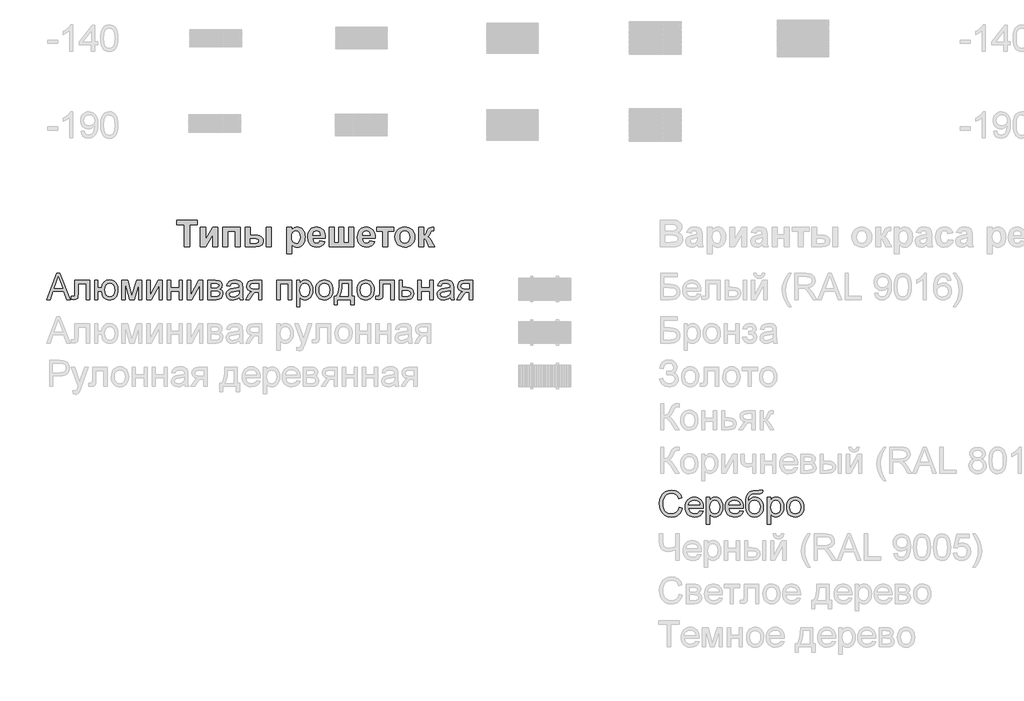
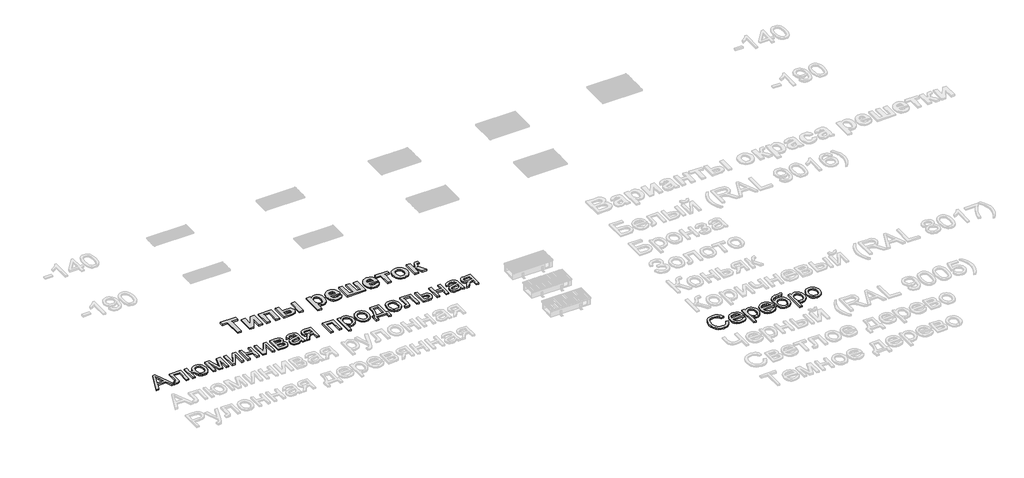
# One storey, part 4 of 12: 3 proxies.
"""IFC4 building model written with IfcOpenShell, lengths in millimetres."""

from ifc_helpers import new_model, si_unit, origin, origin_with_axes, place, context, project, spatial, polyline, outline, extrude, element, save

model = new_model("IFC4")

# Units and contexts
model_context = context("Model", 3, world=origin())
ifc_project = project(units=[si_unit("LENGTHUNIT", "METRE", prefix="MILLI")], contexts=[model_context])

# Site, building, storey
site = spatial("IfcSite", under=ifc_project)
building = spatial("IfcBuilding", under=site)
storey = spatial("IfcBuildingStorey", under=building, Name="Уровень 1", Elevation=0.0)

# Proxies
placement = place(None, origin())
element("IfcBuildingElementProxy", 1, Name="300", ObjectType="300", at=placement, inside=storey, context=model_context, shape_type="SweptSolid", body=[
    extrude(outline(polyline([(29.0156644, -12915.1127464), (149.3130768, -12613.7438159), (181.3923868, -12613.7438159), (301.6897992, -12915.1127464), (261.8849673, -12915.1127464), (227.3776362, -12820.9349556), (103.254251, -12820.9349556), (68.8204963, -12915.1127464), (29.0156644, -12915.1127464)]), holes=[polyline([(117.086614, -12783.2638393), (213.6188496, -12783.2638393), (186.4691583, -12709.1724055), (165.3527318, -12651.4149322), (146.5907501, -12702.6976824), (117.086614, -12783.2638393)])]), origin_with_axes(), (0.0, 0.0, 1.0), 20.0),
    extrude(outline(polyline([(356.0627581, -12693.7949381), (525.5827815, -12693.7949381), (525.5827815, -12914.8920172), (487.9116652, -12914.8920172), (487.9116652, -12731.4660544), (393.7338744, -12731.4660544), (393.7338744, -12837.048187), (391.1954887, -12885.7557632), (386.4406139, -12896.783026), (377.252761, -12906.3203667), (363.3100334, -12912.9146515), (344.2905343, -12915.1127464), (313.6827523, -12913.19976), (313.6827523, -12877.4416301), (330.5317476, -12877.4416301), (347.564684, -12875.1239735), (354.3705009, -12867.7663336), (356.0627581, -12834.9144714), (356.0627581, -12693.7949381)])), origin_with_axes(), (0.0, 0.0, 1.0), 20.0),
    extrude(outline(polyline([(582.0894559, -12693.7949381), (619.7605723, -12693.7949381), (619.7605723, -12778.5549498), (662.1405781, -12778.5549498), (671.9170421, -12740.1480695), (680.4404081, -12724.8073903), (691.3871967, -12712.041885), (704.4493068, -12701.9987066), (719.3186372, -12694.8250077), (754.4789589, -12689.0860485), (784.0290802, -12692.4613658), (806.6078376, -12702.5873178), (824.0270501, -12718.6361698), (838.0985364, -12739.7801875), (847.3967538, -12767.5920663), (850.4961596, -12803.6445018), (848.8935737, -12830.4998875), (844.0858159, -12853.8971824), (836.0728862, -12873.8363865), (824.8547846, -12890.3174999), (810.8913636, -12903.2255594), (794.6424757, -12912.4456019), (776.1081209, -12917.9776274), (755.2882993, -12919.8216359), (735.8848233, -12918.0925905), (718.5092968, -12912.9054544), (703.1617198, -12904.2602275), (689.8420923, -12892.1569099), (678.8815081, -12877.0369599), (670.611061, -12859.3418359), (662.1405781, -12816.2260661), (619.7605723, -12816.2260661), (619.7605723, -12915.1127464), (582.0894559, -12915.1127464), (582.0894559, -12693.7949381)]), holes=[polyline([(756.9069801, -12726.7571648), (732.8934828, -12731.6316013), (714.858068, -12746.2549106), (703.5732878, -12769.6705996), (699.8116944, -12800.9221751), (703.600879, -12837.3332956), (714.9684326, -12862.5424093), (732.6819507, -12877.248492), (755.5090285, -12882.1505196), (778.4004856, -12877.616374), (796.7486001, -12864.0139373), (808.8059325, -12840.3131397), (812.8250433, -12805.4839118), (809.3485585, -12771.04096), (798.9191039, -12746.4388516), (781.4631032, -12731.6775865), (756.9069801, -12726.7571648)])]), origin_with_axes(), (0.0, 0.0, 1.0), 20.0),
    extrude(outline(polyline([(897.585055, -12693.7949381), (962.4058626, -12693.7949381), (1012.3642375, -12870.966907), (1066.2221616, -12693.7949381), (1128.3206424, -12693.7949381), (1128.3206424, -12915.1127464), (1090.6495261, -12915.1127464), (1090.6495261, -12736.9107079), (1036.4972964, -12915.1127464), (987.0539562, -12915.1127464), (935.2561713, -12728.3758456), (935.2561713, -12915.1127464), (897.585055, -12915.1127464), (897.585055, -12693.7949381)])), origin_with_axes(), (0.0, 0.0, 1.0), 20.0),
    extrude(outline(polyline([(1184.8273168, -12693.7949381), (1222.4984332, -12693.7949381), (1222.4984332, -12862.5791975), (1315.0575431, -12693.7949381), (1363.7651193, -12693.7949381), (1363.7651193, -12915.1127464), (1326.094003, -12915.1127464), (1326.094003, -12747.3585566), (1234.1235042, -12915.1127464), (1184.8273168, -12915.1127464), (1184.8273168, -12693.7949381)])), origin_with_axes(), (0.0, 0.0, 1.0), 20.0),
    extrude(outline(polyline([(1420.2717938, -12693.7949381), (1457.9429101, -12693.7949381), (1457.9429101, -12778.5549498), (1556.8295904, -12778.5549498), (1556.8295904, -12693.7949381), (1594.5007067, -12693.7949381), (1594.5007067, -12915.1127464), (1556.8295904, -12915.1127464), (1556.8295904, -12816.2260661), (1457.9429101, -12816.2260661), (1457.9429101, -12915.1127464), (1420.2717938, -12915.1127464), (1420.2717938, -12693.7949381)])), origin_with_axes(), (0.0, 0.0, 1.0), 20.0),
    extrude(outline(polyline([(1651.0073811, -12693.7949381), (1688.6784974, -12693.7949381), (1688.6784974, -12862.5791975), (1781.2376074, -12693.7949381), (1829.9451836, -12693.7949381), (1829.9451836, -12915.1127464), (1792.2740673, -12915.1127464), (1792.2740673, -12747.3585566), (1700.3035685, -12915.1127464), (1651.0073811, -12915.1127464), (1651.0073811, -12693.7949381)])), origin_with_axes(), (0.0, 0.0, 1.0), 20.0),
    extrude(outline(polyline([(1886.451858, -12693.7949381), (1969.4460362, -12693.7949381), (1996.1266779, -12695.0549339), (2014.953039, -12698.8349214), (2028.8037961, -12705.9718321), (2040.5576258, -12717.3025976), (2048.5866504, -12732.0638626), (2051.2629919, -12749.4922722), (2049.6443111, -12763.5361673), (2044.7882688, -12775.648682), (2036.6764708, -12785.8849985), (2025.290523, -12794.3002992), (2039.2332506, -12802.1269886), (2050.6008043, -12814.7177499), (2058.1607793, -12831.0793016), (2060.680771, -12850.2183624), (2054.2980183, -12878.9315522), (2039.122886, -12899.1466678), (2015.1001918, -12911.1212267), (1982.1747532, -12915.1127464), (1886.451858, -12915.1127464), (1886.451858, -12693.7949381)]), holes=[polyline([(1924.1229744, -12778.5549498), (1961.3526323, -12778.5549498), (1992.0707789, -12776.6419634), (2007.0067879, -12768.9900179), (2011.9456037, -12762.6624476), (2013.5918756, -12755.1576549), (2010.7040019, -12743.9188599), (2002.0403809, -12736.6899787), (1986.387002, -12732.7720355), (1962.5298546, -12731.4660544), (1924.1229744, -12731.4660544), (1924.1229744, -12778.5549498)]), polyline([(1924.1229744, -12877.4416301), (1970.3289529, -12877.4416301), (1995.5104755, -12875.7401758), (2011.3110072, -12870.6358132), (2019.7906872, -12861.3559898), (2023.0096547, -12847.1281537), (2021.4001709, -12837.7011775), (2016.5717197, -12828.9915713), (2009.1588975, -12822.1765573), (1999.7963008, -12818.433358), (1966.650133, -12816.2260661), (1924.1229744, -12816.2260661), (1924.1229744, -12877.4416301)])]), origin_with_axes(), (0.0, 0.0, 1.0), 20.0),
    extrude(outline(polyline([(2249.0363525, -12886.8594092), (2231.0377259, -12902.2920588), (2212.5056704, -12912.3904196), (2193.0171217, -12917.9638318), (2172.1490155, -12919.8216359), (2140.6675138, -12915.3518697), (2117.4449628, -12901.942571), (2103.1251562, -12881.5803025), (2098.3518873, -12856.2516272), (2100.154509, -12840.6350365), (2105.5623744, -12826.4531855), (2113.9040986, -12814.3130797), (2124.5082971, -12804.8217242), (2150.8854362, -12792.4608892), (2183.479781, -12786.7955065), (2221.9970258, -12780.8358181), (2248.8156233, -12773.8460602), (2249.0363525, -12765.4583507), (2246.4427844, -12748.6461436), (2238.6620802, -12737.6464719), (2221.2612619, -12729.4794916), (2197.0178384, -12726.7571648), (2174.5770367, -12728.5689837), (2158.9052637, -12734.0044402), (2148.2182917, -12744.0568157), (2140.7318931, -12759.7193916), (2103.0607768, -12755.0105021), (2109.5998793, -12734.4091103), (2119.3579492, -12718.2223026), (2133.2454945, -12705.8430734), (2152.1730232, -12696.6644176), (2175.3219977, -12690.9806408), (2201.8738807, -12689.0860485), (2227.3405118, -12690.7599116), (2247.5280363, -12695.7815009), (2262.7491539, -12703.3322788), (2273.3165642, -12712.593708), (2280.3247162, -12724.0440351), (2284.8680588, -12738.1615067), (2286.7074688, -12771.1237335), (2286.7074688, -12817.9918997), (2288.6204552, -12883.4381066), (2296.1252479, -12915.1127464), (2258.4541316, -12915.1127464), (2249.0363525, -12886.8594092)]), holes=[polyline([(2249.0363525, -12811.5171765), (2188.2622469, -12823.0686712), (2155.8518431, -12829.1755123), (2141.1733515, -12839.1083262), (2136.0230036, -12853.6028768), (2138.8281038, -12864.8048835), (2147.2434044, -12873.9835393), (2161.0849645, -12880.1087745), (2180.168843, -12882.1505196), (2200.4023527, -12879.8972424), (2218.2814177, -12873.1374107), (2232.7759683, -12863.1770057), (2242.855935, -12851.3220084), (2247.3257012, -12839.1083262), (2248.8156233, -12822.1857544), (2249.0363525, -12811.5171765)])]), origin_with_axes(), (0.0, 0.0, 1.0), 20.0),
    extrude(outline(polyline([(2508.0252771, -12693.7949381), (2508.0252771, -12915.1127464), (2470.3541608, -12915.1127464), (2470.3541608, -12830.3527347), (2449.8263455, -12830.3527347), (2421.8673138, -12835.1352006), (2410.7020953, -12845.5646552), (2395.6005394, -12867.288087), (2365.5813686, -12915.1127464), (2322.0241403, -12915.1127464), (2359.8424094, -12854.6329464), (2376.544252, -12832.9279087), (2391.9217194, -12823.2894004), (2366.1699798, -12815.3983316), (2348.0701856, -12800.4071403), (2337.3648195, -12780.4679361), (2333.7963642, -12757.7328288), (2338.6708006, -12731.944301), (2353.2941099, -12711.5268502), (2377.1512573, -12698.2279161), (2409.727208, -12693.7949381), (2508.0252771, -12693.7949381)]), holes=[polyline([(2470.3541608, -12731.4660544), (2420.6900914, -12731.4660544), (2395.0395193, -12733.6457552), (2380.4805894, -12740.1848577), (2373.7207577, -12749.648622), (2371.4674805, -12760.6023084), (2374.7876155, -12774.9589033), (2384.7480205, -12784.9193083), (2403.1513173, -12790.7410409), (2431.8001277, -12792.6816184), (2470.3541608, -12792.6816184), (2470.3541608, -12731.4660544)])]), origin_with_axes(), (0.0, 0.0, 1.0), 20.0),
    extrude(outline(polyline([(2682.25419, -12693.7949381), (2851.7742134, -12693.7949381), (2851.7742134, -12915.1127464), (2814.1030971, -12915.1127464), (2814.1030971, -12731.4660544), (2719.9253063, -12731.4660544), (2719.9253063, -12915.1127464), (2682.25419, -12915.1127464), (2682.25419, -12693.7949381)])), origin_with_axes(), (0.0, 0.0, 1.0), 20.0),
    extrude(outline(polyline([(2908.2808879, -12999.8727581), (2908.2808879, -12693.7949381), (2945.9520042, -12693.7949381), (2945.9520042, -12730.7302904), (2958.2392628, -12712.5109346), (2971.9980494, -12699.497109), (2988.0377044, -12691.6888137), (3007.1675682, -12689.0860485), (3032.6433963, -12692.7280803), (3054.9186511, -12703.6541756), (3073.0552335, -12721.2021467), (3086.1150443, -12744.7098062), (3094.0061131, -12772.4665028), (3096.6364694, -12802.7615851), (3093.6658223, -12834.9788508), (3084.7538809, -12863.7932081), (3070.1857539, -12887.7423259), (3050.2465498, -12905.3638735), (3027.0239988, -12916.2071953), (3002.6058314, -12919.8216359), (2985.2877865, -12917.4028118), (2969.8275456, -12910.1463394), (2956.5929909, -12899.192653), (2945.9520042, -12885.6821868), (2945.9520042, -12999.8727581), (2908.2808879, -12999.8727581)]), holes=[polyline([(2945.9520042, -12806.2196758), (2950.0262973, -12839.991243), (2962.2491765, -12863.6092671), (2980.2845914, -12877.5152065), (3001.796491, -12882.1505196), (3023.6578786, -12877.3496596), (3042.1531459, -12862.9470795), (3054.7623013, -12838.4645327), (3058.9653531, -12803.4237726), (3054.8634688, -12769.8361465), (3042.5578161, -12745.8870286), (3024.5499924, -12731.5396308), (3003.3415954, -12726.7571648), (2982.0504249, -12731.8431334), (2963.3528225, -12747.1010392), (2950.3022087, -12772.0526355), (2945.9520042, -12806.2196758)])]), origin_with_axes(), (0.0, 0.0, 1.0), 20.0),
    extrude(outline(polyline([(3129.5986961, -12804.4538422), (3131.6358427, -12775.7912363), (3137.7472823, -12751.0925588), (3147.9330151, -12730.3578099), (3162.1930409, -12713.5869894), (3176.5496358, -12702.8678278), (3192.3961527, -12695.2112838), (3209.7325917, -12690.6173573), (3228.5589529, -12689.0860485), (3249.3419863, -12690.9507504), (3268.1338585, -12696.544856), (3284.9345693, -12705.8683653), (3299.7441189, -12718.9212784), (3311.8313417, -12735.2621367), (3320.4650723, -12754.449482), (3325.6453106, -12776.4833143), (3327.3720568, -12801.3636335), (3324.3186362, -12839.4210259), (3315.1583745, -12868.391733), (3300.1579862, -12890.0875737), (3279.5841856, -12906.3203667), (3255.1476241, -12916.4463186), (3228.5589529, -12919.8216359), (3207.4724167, -12917.9638318), (3188.5058006, -12912.3904196), (3171.6591045, -12903.1013992), (3156.9323284, -12890.0967707), (3144.9738643, -12873.5972632), (3136.4321042, -12853.823606), (3131.3070482, -12830.775799), (3129.5986961, -12804.4538422)]), holes=[polyline([(3167.2698125, -12804.3802658), (3171.6292141, -12838.4737297), (3184.707419, -12862.7631385), (3204.3891058, -12877.3036743), (3228.5589529, -12882.1505196), (3252.6184353, -12877.2760832), (3272.2633339, -12862.6527739), (3285.3415388, -12838.0414684), (3289.7009404, -12803.2030434), (3285.3139477, -12770.1028609), (3272.1529693, -12746.144546), (3252.4804796, -12731.6040101), (3228.5589529, -12726.7571648), (3204.3891058, -12731.585616), (3184.707419, -12746.0709696), (3171.6292141, -12770.305196), (3167.2698125, -12804.3802658)])]), origin_with_axes(), (0.0, 0.0, 1.0), 20.0),
    extrude(outline(polyline([(3402.7142894, -12693.7949381), (3543.9809755, -12693.7949381), (3543.9809755, -12877.4416301), (3572.2343127, -12877.4416301), (3572.2343127, -12976.3283104), (3534.5631964, -12976.3283104), (3534.5631964, -12915.1127464), (3379.1698417, -12915.1127464), (3379.1698417, -12976.3283104), (3341.4987254, -12976.3283104), (3341.4987254, -12877.4416301), (3365.0431731, -12877.4416301), (3382.1588829, -12846.5119513), (3394.1426389, -12805.5942764), (3400.994441, -12754.6886053), (3402.7142894, -12693.7949381)]), holes=[polyline([(3435.6765161, -12731.4660544), (3432.5863074, -12777.5892595), (3426.8473483, -12817.2929239), (3418.4596388, -12850.5770474), (3407.4231789, -12877.4416301), (3506.3098592, -12877.4416301), (3506.3098592, -12731.4660544), (3435.6765161, -12731.4660544)])]), origin_with_axes(), (0.0, 0.0, 1.0), 20.0),
    extrude(outline(polyline([(3605.1965395, -12804.4538422), (3607.2336861, -12775.7912363), (3613.3451257, -12751.0925588), (3623.5308584, -12730.3578099), (3637.7908843, -12713.5869894), (3652.1474791, -12702.8678278), (3667.9939961, -12695.2112838), (3685.3304351, -12690.6173573), (3704.1567962, -12689.0860485), (3724.9398297, -12690.9507504), (3743.7317018, -12696.544856), (3760.5324127, -12705.8683653), (3775.3419623, -12718.9212784), (3787.4291851, -12735.2621367), (3796.0629157, -12754.449482), (3801.243154, -12776.4833143), (3802.9699001, -12801.3636335), (3799.9164796, -12839.4210259), (3790.7562179, -12868.391733), (3775.7558295, -12890.0875737), (3755.1820289, -12906.3203667), (3730.7454674, -12916.4463186), (3704.1567962, -12919.8216359), (3683.0702601, -12917.9638318), (3664.103644, -12912.3904196), (3647.2569479, -12903.1013992), (3632.5301718, -12890.0967707), (3620.5717076, -12873.5972632), (3612.0299476, -12853.823606), (3606.9048915, -12830.775799), (3605.1965395, -12804.4538422)]), holes=[polyline([(3642.8676558, -12804.3802658), (3647.2270575, -12838.4737297), (3660.3052624, -12862.7631385), (3679.9869491, -12877.3036743), (3704.1567962, -12882.1505196), (3728.2162787, -12877.2760832), (3747.8611772, -12862.6527739), (3760.9393822, -12838.0414684), (3765.2987838, -12803.2030434), (3760.911791, -12770.1028609), (3747.7508126, -12746.144546), (3728.078323, -12731.6040101), (3704.1567962, -12726.7571648), (3679.9869491, -12731.585616), (3660.3052624, -12746.0709696), (3647.2270575, -12770.305196), (3642.8676558, -12804.3802658)])]), origin_with_axes(), (0.0, 0.0, 1.0), 20.0),
    extrude(outline(polyline([(3864.1854641, -12693.7949381), (4033.7054875, -12693.7949381), (4033.7054875, -12914.8920172), (3996.0343712, -12914.8920172), (3996.0343712, -12731.4660544), (3901.8565804, -12731.4660544), (3901.8565804, -12837.048187), (3899.3181947, -12885.7557632), (3894.5633199, -12896.783026), (3885.375467, -12906.3203667), (3871.4327394, -12912.9146515), (3852.4132403, -12915.1127464), (3821.8054583, -12913.19976), (3821.8054583, -12877.4416301), (3838.6544537, -12877.4416301), (3855.68739, -12875.1239735), (3862.4932069, -12867.7663336), (3864.1854641, -12834.9144714), (3864.1854641, -12693.7949381)])), origin_with_axes(), (0.0, 0.0, 1.0), 20.0),
    extrude(outline(polyline([(4090.212162, -12693.7949381), (4127.8832783, -12693.7949381), (4127.8832783, -12773.8460602), (4171.2933537, -12773.8460602), (4208.9276818, -12778.5641468), (4224.0752229, -12784.4617551), (4236.7763488, -12792.7184066), (4246.8195273, -12803.0489929), (4253.9932262, -12815.1684053), (4259.7321853, -12844.7737089), (4254.8485518, -12871.7302621), (4240.1976514, -12894.4745665), (4228.9657542, -12903.5037702), (4214.8045967, -12909.9532014), (4177.6945004, -12915.1127464), (4090.212162, -12915.1127464), (4090.212162, -12693.7949381)]), holes=[polyline([(4127.8832783, -12877.4416301), (4163.052797, -12877.4416301), (4190.340444, -12875.4642644), (4208.4862234, -12869.5321672), (4218.6673576, -12859.4062153), (4222.061069, -12844.8472853), (4219.5502744, -12832.5416326), (4212.0178906, -12821.6707196), (4195.877068, -12814.0555623), (4167.5409573, -12811.5171765), (4127.8832783, -12811.5171765), (4127.8832783, -12877.4416301)])]), origin_with_axes(), (0.0, 0.0, 1.0), 20.0),
    extrude(outline(polyline([(4306.8210807, -12693.7949381), (4344.492197, -12693.7949381), (4344.492197, -12778.5549498), (4443.3788773, -12778.5549498), (4443.3788773, -12693.7949381), (4481.0499936, -12693.7949381), (4481.0499936, -12915.1127464), (4443.3788773, -12915.1127464), (4443.3788773, -12816.2260661), (4344.492197, -12816.2260661), (4344.492197, -12915.1127464), (4306.8210807, -12915.1127464), (4306.8210807, -12693.7949381)])), origin_with_axes(), (0.0, 0.0, 1.0), 20.0),
    extrude(outline(polyline([(4678.8233542, -12886.8594092), (4660.8247276, -12902.2920588), (4642.2926721, -12912.3904196), (4622.8041234, -12917.9638318), (4601.9360172, -12919.8216359), (4570.4545155, -12915.3518697), (4547.2319646, -12901.942571), (4532.9121579, -12881.5803025), (4528.138889, -12856.2516272), (4529.9415108, -12840.6350365), (4535.3493761, -12826.4531855), (4543.6911004, -12814.3130797), (4554.2952989, -12804.8217242), (4580.6724379, -12792.4608892), (4613.2667827, -12786.7955065), (4651.7840276, -12780.8358181), (4678.602625, -12773.8460602), (4678.8233542, -12765.4583507), (4676.2297862, -12748.6461436), (4668.449082, -12737.6464719), (4651.0482636, -12729.4794916), (4626.8048401, -12726.7571648), (4604.3640384, -12728.5689837), (4588.6922654, -12734.0044402), (4578.0052935, -12744.0568157), (4570.5188949, -12759.7193916), (4532.8477786, -12755.0105021), (4539.386881, -12734.4091103), (4549.1449509, -12718.2223026), (4563.0324963, -12705.8430734), (4581.9600249, -12696.6644176), (4605.1089995, -12690.9806408), (4631.6608825, -12689.0860485), (4657.1275136, -12690.7599116), (4677.3150381, -12695.7815009), (4692.5361556, -12703.3322788), (4703.1035659, -12712.593708), (4710.1117179, -12724.0440351), (4714.6550606, -12738.1615067), (4716.4944705, -12771.1237335), (4716.4944705, -12817.9918997), (4718.4074569, -12883.4381066), (4725.9122496, -12915.1127464), (4688.2411333, -12915.1127464), (4678.8233542, -12886.8594092)]), holes=[polyline([(4678.8233542, -12811.5171765), (4618.0492486, -12823.0686712), (4585.6388449, -12829.1755123), (4570.9603533, -12839.1083262), (4565.8100053, -12853.6028768), (4568.6151055, -12864.8048835), (4577.0304062, -12873.9835393), (4590.8719662, -12880.1087745), (4609.9558447, -12882.1505196), (4630.1893545, -12879.8972424), (4648.0684194, -12873.1374107), (4662.5629701, -12863.1770057), (4672.6429367, -12851.3220084), (4677.112703, -12839.1083262), (4678.602625, -12822.1857544), (4678.8233542, -12811.5171765)])]), origin_with_axes(), (0.0, 0.0, 1.0), 20.0),
    extrude(outline(polyline([(4937.8122788, -12693.7949381), (4937.8122788, -12915.1127464), (4900.1411625, -12915.1127464), (4900.1411625, -12830.3527347), (4879.6133472, -12830.3527347), (4851.6543156, -12835.1352006), (4840.489097, -12845.5646552), (4825.3875411, -12867.288087), (4795.3683703, -12915.1127464), (4751.8111421, -12915.1127464), (4789.6294112, -12854.6329464), (4806.3312538, -12832.9279087), (4821.7087212, -12823.2894004), (4795.9569815, -12815.3983316), (4777.8571873, -12800.4071403), (4767.1518213, -12780.4679361), (4763.5833659, -12757.7328288), (4768.4578024, -12731.944301), (4783.0811117, -12711.5268502), (4806.9382591, -12698.2279161), (4839.5142097, -12693.7949381), (4937.8122788, -12693.7949381)]), holes=[polyline([(4900.1411625, -12731.4660544), (4850.4770932, -12731.4660544), (4824.8265211, -12733.6457552), (4810.2675911, -12740.1848577), (4803.5077595, -12749.648622), (4801.2544822, -12760.6023084), (4804.5746172, -12774.9589033), (4814.5350223, -12784.9193083), (4832.9383191, -12790.7410409), (4861.5871294, -12792.6816184), (4900.1411625, -12792.6816184), (4900.1411625, -12731.4660544)])]), origin_with_axes(), (0.0, 0.0, 1.0), 20.0),
])
element("IfcBuildingElementProxy", 2, Name="300", ObjectType="300", at=placement, inside=storey, context=model_context, shape_type="SweptSolid", body=[
    extrude(outline(polyline([(7314.0636537, -15307.9855094), (7351.73477, -15317.6975941), (7344.2805611, -15341.1247794), (7334.3523457, -15361.5951131), (7321.950124, -15379.1085954), (7307.0738958, -15393.6652261), (7290.0593535, -15405.1086554), (7271.2421895, -15413.2825335), (7250.6224036, -15418.1868603), (7228.199996, -15419.8216359), (7184.5048121, -15414.8736231), (7149.8043429, -15400.0295846), (7123.2064746, -15375.8045552), (7103.8190935, -15342.7135697), (7091.9824903, -15303.8100487), (7088.0369559, -15262.1474128), (7092.4975251, -15218.2039085), (7105.8792326, -15180.2568807), (7127.4831028, -15149.5111429), (7156.6101598, -15127.1715088), (7191.1542791, -15113.569072), (7229.0093364, -15109.0349264), (7270.3132874, -15114.9026442), (7288.2820236, -15122.2372915), (7304.4619336, -15132.5057977), (7318.586303, -15145.4368498), (7330.3884172, -15160.7591349), (7347.0258805, -15198.577404), (7309.3547642, -15207.5537247), (7296.2949533, -15180.0821367), (7278.4526766, -15161.2373815), (7255.6072047, -15150.3388774), (7227.5378084, -15146.7060427), (7195.182587, -15150.7343505), (7168.6031128, -15162.8192741), (7148.4339824, -15181.6916204), (7135.3097923, -15206.0821967), (7128.1085022, -15233.6549523), (7125.7080722, -15262.0738364), (7128.5499606, -15296.8754731), (7137.0756258, -15326.9682203), (7151.6069646, -15351.2024468), (7172.4658738, -15368.4285212), (7197.4726524, -15378.72002), (7224.4475997, -15382.1505196), (7255.8923132, -15377.4784183), (7282.0947083, -15363.4621143), (7301.8775626, -15340.2487604), (7314.0636537, -15307.9855094)])), origin_with_axes(), (0.0, 0.0, 1.0), 20.0),
    extrude(outline(polyline([(7553.7755618, -15349.1882928), (7590.7109141, -15353.8971824), (7577.4027829, -15381.7274553), (7556.1667947, -15402.5311821), (7527.4811962, -15415.4990225), (7491.8242338, -15419.8216359), (7468.4499315, -15417.9569341), (7447.6232121, -15412.3628285), (7429.3440754, -15403.0393192), (7413.6125216, -15389.9864061), (7400.9619795, -15373.5673728), (7391.925878, -15354.1455027), (7386.5042171, -15331.7207959), (7384.6969968, -15306.2932522), (7386.5226112, -15280.0034851), (7391.9994544, -15256.831518), (7401.1275264, -15236.7773507), (7413.9068272, -15219.8409833), (7429.5969943, -15206.3856994), (7447.4576652, -15196.7747822), (7467.4888398, -15191.008232), (7489.6905182, -15189.0860485), (7511.177126, -15191.0036334), (7530.6081931, -15196.7563881), (7547.9837196, -15206.3443126), (7563.3037054, -15219.7674069), (7575.809394, -15236.6669861), (7584.7420287, -15256.6843652), (7590.1016095, -15279.8195441), (7591.8881365, -15306.072523), (7591.6674073, -15316.2260661), (7422.3681131, -15316.2260661), (7428.8888215, -15344.424221), (7444.0363626, -15365.1543714), (7465.8977502, -15377.9014826), (7492.5599978, -15382.1505196), (7512.6095665, -15380.1823509), (7529.4953501, -15374.2778449), (7543.2173485, -15364.0691195), (7553.7755618, -15349.1882928)]), holes=[polyline([(7422.3681131, -15278.5549498), (7554.2170202, -15278.5549498), (7549.1218545, -15258.6525338), (7539.1338584, -15244.4155006), (7517.1713032, -15231.1717488), (7489.5433654, -15226.7571648), (7464.1503107, -15230.279635), (7443.1534458, -15240.8470453), (7428.5577277, -15257.3189616), (7422.3681131, -15278.5549498)])]), origin_with_axes(), (0.0, 0.0, 1.0), 20.0),
    extrude(outline(polyline([(7629.5592528, -15499.8727581), (7629.5592528, -15193.7949381), (7667.2303691, -15193.7949381), (7667.2303691, -15230.7302904), (7679.5176277, -15212.5109346), (7693.2764143, -15199.497109), (7709.3160693, -15191.6888137), (7728.4459331, -15189.0860485), (7753.9217612, -15192.7280803), (7776.1970161, -15203.6541756), (7794.3335984, -15221.2021467), (7807.3934092, -15244.7098062), (7815.284478, -15272.4665028), (7817.9148343, -15302.7615851), (7814.9441872, -15334.9788508), (7806.0322459, -15363.7932081), (7791.4641189, -15387.7423259), (7771.5249147, -15405.3638735), (7748.3023638, -15416.2071953), (7723.8841963, -15419.8216359), (7706.5661514, -15417.4028118), (7691.1059106, -15410.1463394), (7677.8713558, -15399.192653), (7667.2303691, -15385.6821868), (7667.2303691, -15499.8727581), (7629.5592528, -15499.8727581)]), holes=[polyline([(7667.2303691, -15306.2196758), (7671.3046622, -15339.991243), (7683.5275415, -15363.6092671), (7701.5629563, -15377.5152065), (7723.074856, -15382.1505196), (7744.9362435, -15377.3496596), (7763.4315108, -15362.9470795), (7776.0406662, -15338.4645327), (7780.243718, -15303.4237726), (7776.1418338, -15269.8361465), (7763.836181, -15245.8870286), (7745.8283574, -15231.5396308), (7724.6199603, -15226.7571648), (7703.3287899, -15231.8431334), (7684.6311875, -15247.1010392), (7671.5805737, -15272.0526355), (7667.2303691, -15306.2196758)])]), origin_with_axes(), (0.0, 0.0, 1.0), 20.0),
    extrude(outline(polyline([(8015.2467365, -15349.1882928), (8052.1820888, -15353.8971824), (8038.8739577, -15381.7274553), (8017.6379695, -15402.5311821), (7988.9523709, -15415.4990225), (7953.2954085, -15419.8216359), (7929.9211063, -15417.9569341), (7909.0943868, -15412.3628285), (7890.8152502, -15403.0393192), (7875.0836964, -15389.9864061), (7862.4331542, -15373.5673728), (7853.3970527, -15354.1455027), (7847.9753918, -15331.7207959), (7846.1681715, -15306.2932522), (7847.9937859, -15280.0034851), (7853.4706291, -15256.831518), (7862.5987011, -15236.7773507), (7875.378002, -15219.8409833), (7891.068169, -15206.3856994), (7908.9288399, -15196.7747822), (7928.9600146, -15191.008232), (7951.161693, -15189.0860485), (7972.6483007, -15191.0036334), (7992.0793679, -15196.7563881), (8009.4548944, -15206.3443126), (8024.7748802, -15219.7674069), (8037.2805688, -15236.6669861), (8046.2132035, -15256.6843652), (8051.5727843, -15279.8195441), (8053.3593112, -15306.072523), (8053.138582, -15316.2260661), (7883.8392878, -15316.2260661), (7890.3599962, -15344.424221), (7905.5075374, -15365.1543714), (7927.3689249, -15377.9014826), (7954.0311725, -15382.1505196), (7974.0807413, -15380.1823509), (7990.9665248, -15374.2778449), (8004.6885233, -15364.0691195), (8015.2467365, -15349.1882928)]), holes=[polyline([(7883.8392878, -15278.5549498), (8015.6881949, -15278.5549498), (8010.5930293, -15258.6525338), (8000.6050331, -15244.4155006), (7978.642478, -15231.1717488), (7951.0145402, -15226.7571648), (7925.6214854, -15230.279635), (7904.6246206, -15240.8470453), (7890.0289024, -15257.3189616), (7883.8392878, -15278.5549498)])]), origin_with_axes(), (0.0, 0.0, 1.0), 20.0),
    extrude(outline(polyline([(8246.4237823, -15109.0349264), (8279.3860091, -15109.0349264), (8275.8175537, -15126.9415825), (8269.6739244, -15138.4286978), (8261.1574562, -15145.2253177), (8250.4704842, -15149.0604875), (8204.338082, -15151.4149322), (8166.0323693, -15153.585436), (8142.2028131, -15160.0969473), (8127.9473857, -15171.3909246), (8118.3640598, -15187.9088262), (8112.7262682, -15209.7794108), (8110.3074441, -15237.1314371), (8125.4549852, -15216.088587), (8142.938577, -15201.0790016), (8162.7766136, -15192.0842868), (8184.9874891, -15189.0860485), (8205.5107059, -15190.9921371), (8224.1853157, -15196.7104029), (8241.0113184, -15206.2408458), (8255.9887142, -15219.5834659), (8268.2851699, -15236.1772432), (8277.0683525, -15255.4611575), (8282.3382621, -15277.4352089), (8284.0948986, -15302.0993975), (8280.6092167, -15338.0598625), (8270.152171, -15366.920205), (8254.9126593, -15389.3518097), (8237.0795796, -15406.0260611), (8214.4916251, -15416.3727422), (8184.9874891, -15419.8216359), (8150.9859957, -15415.3794608), (8125.5009705, -15402.0529356), (8106.7481858, -15381.8010317), (8092.9434139, -15356.5827209), (8084.4453398, -15318.608102), (8081.6126484, -15260.0872736), (8083.3991754, -15220.4226967), (8088.7587562, -15187.8076586), (8097.6913909, -15162.2421592), (8110.1970795, -15143.7261985), (8126.4091791, -15130.6089061), (8146.4610471, -15121.2394116), (8170.3526835, -15115.6177148), (8198.0840881, -15113.7438159), (8240.0226356, -15112.8976873), (8246.4237823, -15109.0349264)]), holes=[polyline([(8246.4237823, -15300.9221751), (8242.3402921, -15271.2800833), (8230.0898217, -15247.5424976), (8210.408135, -15231.953498), (8184.0309959, -15226.7571648), (8156.5318168, -15232.2478036), (8145.4447731, -15239.1111021), (8136.1327601, -15248.71972), (8123.4960136, -15274.3702921), (8119.2837648, -15307.3968982), (8123.937472, -15339.4118288), (8137.8985937, -15362.9102913), (8158.6839264, -15377.3404625), (8183.8102667, -15382.1505196), (8209.0653657, -15376.5863044), (8229.0597521, -15359.8936589), (8242.0827747, -15334.0223576), (8246.4237823, -15300.9221751)])]), origin_with_axes(), (0.0, 0.0, 1.0), 20.0),
    extrude(outline(polyline([(8331.183794, -15499.8727581), (8331.183794, -15193.7949381), (8368.8549103, -15193.7949381), (8368.8549103, -15230.7302904), (8381.1421689, -15212.5109346), (8394.9009555, -15199.497109), (8410.9406105, -15191.6888137), (8430.0704743, -15189.0860485), (8455.5463024, -15192.7280803), (8477.8215573, -15203.6541756), (8495.9581396, -15221.2021467), (8509.0179504, -15244.7098062), (8516.9090192, -15272.4665028), (8519.5393755, -15302.7615851), (8516.5687284, -15334.9788508), (8507.6567871, -15363.7932081), (8493.0886601, -15387.7423259), (8473.1494559, -15405.3638735), (8449.926905, -15416.2071953), (8425.5087375, -15419.8216359), (8408.1906926, -15417.4028118), (8392.7304518, -15410.1463394), (8379.495897, -15399.192653), (8368.8549103, -15385.6821868), (8368.8549103, -15499.8727581), (8331.183794, -15499.8727581)]), holes=[polyline([(8368.8549103, -15306.2196758), (8372.9292034, -15339.991243), (8385.1520827, -15363.6092671), (8403.1874975, -15377.5152065), (8424.6993972, -15382.1505196), (8446.5607847, -15377.3496596), (8465.056052, -15362.9470795), (8477.6652074, -15338.4645327), (8481.8682592, -15303.4237726), (8477.766375, -15269.8361465), (8465.4607222, -15245.8870286), (8447.4528986, -15231.5396308), (8426.2445015, -15226.7571648), (8404.9533311, -15231.8431334), (8386.2557287, -15247.1010392), (8373.2051149, -15272.0526355), (8368.8549103, -15306.2196758)])]), origin_with_axes(), (0.0, 0.0, 1.0), 20.0),
    extrude(outline(polyline([(8552.5016023, -15304.4538422), (8554.5387488, -15275.7912363), (8560.6501885, -15251.0925588), (8570.8359212, -15230.3578099), (8585.095947, -15213.5869894), (8599.4525419, -15202.8678278), (8615.2990589, -15195.2112838), (8632.6354979, -15190.6173573), (8651.461859, -15189.0860485), (8672.2448924, -15190.9507504), (8691.0367646, -15196.544856), (8707.8374755, -15205.8683653), (8722.647025, -15218.9212784), (8734.7342478, -15235.2621367), (8743.3679784, -15254.449482), (8748.5482168, -15276.4833143), (8750.2749629, -15301.3636335), (8747.2215423, -15339.4210259), (8738.0612806, -15368.391733), (8723.0608923, -15390.0875737), (8702.4870917, -15406.3203667), (8678.0505302, -15416.4463186), (8651.461859, -15419.8216359), (8630.3753229, -15417.9638318), (8611.4087068, -15412.3904196), (8594.5620106, -15403.1013992), (8579.8352345, -15390.0967707), (8567.8767704, -15373.5972632), (8559.3350103, -15353.823606), (8554.2099543, -15330.775799), (8552.5016023, -15304.4538422)]), holes=[polyline([(8590.1727186, -15304.3802658), (8594.5321202, -15338.4737297), (8607.6103252, -15362.7631385), (8627.2920119, -15377.3036743), (8651.461859, -15382.1505196), (8675.5213415, -15377.2760832), (8695.16624, -15362.6527739), (8708.2444449, -15338.0414684), (8712.6038466, -15303.2030434), (8708.2168538, -15270.1028609), (8695.0558754, -15246.144546), (8675.3833857, -15231.6040101), (8651.461859, -15226.7571648), (8627.2920119, -15231.585616), (8607.6103252, -15246.0709696), (8594.5321202, -15270.305196), (8590.1727186, -15304.3802658)])]), origin_with_axes(), (0.0, 0.0, 1.0), 20.0),
])
element("IfcBuildingElementProxy", 3, Name="300_", ObjectType="300_", at=placement, inside=storey, context=model_context, shape_type="SweptSolid", body=[
    extrude(outline(polyline([(1617.409828, -12306.4763576), (1617.409828, -12053.8406967), (1529.9590223, -12053.8406967), (1529.9590223, -12000.3985377), (1763.1611709, -12000.3985377), (1763.1611709, -12053.8406967), (1675.7103651, -12053.8406967), (1675.7103651, -12306.4763576), (1617.409828, -12306.4763576)])), origin_with_axes(), (0.0, 0.0, 1.0), 20.0),
    extrude(outline(polyline([(1802.0281956, -12082.9909653), (1860.3287328, -12082.9909653), (1860.3287328, -12220.4678829), (1942.9211604, -12082.9909653), (2001.2216975, -12082.9909653), (2001.2216975, -12306.4763576), (1942.9211604, -12306.4763576), (1942.9211604, -12168.9235278), (1860.3287328, -12306.4763576), (1802.0281956, -12306.4763576), (1802.0281956, -12082.9909653)])), origin_with_axes(), (0.0, 0.0, 1.0), 20.0),
    extrude(outline(polyline([(2059.5222346, -12082.9909653), (2258.7157365, -12082.9909653), (2258.7157365, -12306.4763576), (2200.4151994, -12306.4763576), (2200.4151994, -12126.7163681), (2117.8227718, -12126.7163681), (2117.8227718, -12306.4763576), (2059.5222346, -12306.4763576), (2059.5222346, -12082.9909653)])), origin_with_axes(), (0.0, 0.0, 1.0), 20.0),
    extrude(outline(polyline([(2559.9351784, -12082.9909653), (2618.2357156, -12082.9909653), (2618.2357156, -12306.4763576), (2559.9351784, -12306.4763576), (2559.9351784, -12082.9909653)])), origin_with_axes(), (0.0, 0.0, 1.0), 20.0),
    extrude(outline(polyline([(2317.0162737, -12082.9909653), (2375.3168108, -12082.9909653), (2375.3168108, -12175.3001491), (2432.4027534, -12175.3001491), (2462.046451, -12176.5432107), (2483.7193721, -12180.2723954), (2500.049975, -12188.1672598), (2513.6667183, -12201.9073604), (2522.8615784, -12220.0598551), (2525.9265318, -12241.191902), (2520.5272796, -12269.7064062), (2513.7782143, -12280.9247998), (2504.3295229, -12290.1172877), (2477.3332618, -12302.3865901), (2439.5384963, -12306.4763576), (2317.0162737, -12306.4763576), (2317.0162737, -12082.9909653)]), holes=[polyline([(2375.3168108, -12267.6093329), (2428.3034969, -12267.6093329), (2446.123876, -12266.0246666), (2458.2887992, -12261.2706677), (2465.2916958, -12252.9487974), (2467.6259946, -12240.6605169), (2464.6084864, -12227.8598293), (2455.5559616, -12219.8226296), (2438.6844845, -12215.5810378), (2412.2101195, -12214.1671738), (2375.3168108, -12214.1671738), (2375.3168108, -12267.6093329)])]), origin_with_axes(), (0.0, 0.0, 1.0), 20.0),
    extrude(outline(polyline([(2793.137327, -12082.9909653), (2851.4378641, -12082.9909653), (2851.4378641, -12115.1777202), (2863.4889192, -12100.204047), (2879.1458017, -12088.3807285), (2897.573478, -12080.6946225), (2917.9369143, -12078.1325872), (2935.7976217, -12080.0375079), (2952.2586986, -12085.75227), (2967.3201452, -12095.2768736), (2980.9819613, -12108.6113185), (2992.3237121, -12125.3428325), (3000.4249627, -12145.0586432), (3005.2857131, -12167.7587507), (3006.9059632, -12193.4431548), (3005.2335235, -12219.8558412), (3000.2162043, -12243.1466401), (2991.8540057, -12263.3155515), (2980.1469276, -12280.3625754), (2966.0581056, -12293.9128955), (2950.5506751, -12303.5916957), (2933.6246362, -12309.3989757), (2915.2799888, -12311.3347357), (2897.9909949, -12309.531822), (2882.4100245, -12304.1230808), (2867.3035051, -12294.3304124), (2851.4378641, -12279.3757173), (2851.4378641, -12389.0687853), (2793.137327, -12389.0687853), (2793.137327, -12082.9909653)]), holes=[polyline([(2851.4378641, -12190.8621414), (2855.0911367, -12224.9846563), (2866.0509545, -12248.8590299), (2882.2676892, -12262.9217571), (2901.6917126, -12267.6093329), (2920.1288779, -12263.310807), (2935.2069302, -12250.4152292), (2945.2558021, -12227.708005), (2948.605426, -12193.9745399), (2945.1609119, -12162.0914336), (2934.8273694, -12139.6214349), (2919.3887343, -12126.2988513), (2900.6289424, -12121.85799), (2881.2428751, -12126.2134501), (2865.4436572, -12139.2798302), (2854.9393124, -12160.8863281), (2851.4378641, -12190.8621414)])]), origin_with_axes(), (0.0, 0.0, 1.0), 20.0),
    extrude(outline(polyline([(3176.9491965, -12238.4590643), (3235.2497336, -12248.1758205), (3221.0541601, -12275.38084), (3200.4819654, -12295.2034022), (3173.7419078, -12307.3019024), (3141.0427459, -12311.3347357), (3114.6395485, -12308.9577363), (3091.9086018, -12301.826738), (3072.8499057, -12289.9417408), (3057.4634602, -12273.3027447), (3048.0977978, -12257.0812655), (3041.4080389, -12238.8576031), (3036.0562317, -12196.4037289), (3037.8306784, -12170.1950565), (3043.1540185, -12146.9849142), (3052.0262519, -12126.7733022), (3064.4473787, -12109.5602205), (3079.5823652, -12095.8106309), (3096.5961775, -12085.9894955), (3115.4888158, -12080.0968143), (3136.26028, -12078.1325872), (3159.3423204, -12080.1490039), (3179.8528365, -12086.1982539), (3197.7918283, -12096.2803374), (3213.1592957, -12110.3952542), (3225.4048757, -12128.6758507), (3233.978205, -12151.2549731), (3238.8792837, -12178.1326215), (3240.1081117, -12209.3087957), (3094.3567689, -12209.3087957), (3098.0954427, -12233.8663788), (3108.0968694, -12252.275077), (3122.8428061, -12263.7757689), (3140.8150094, -12267.6093329), (3153.0558449, -12265.8823313), (3163.209096, -12260.7013265), (3171.1988506, -12251.6867578), (3176.9491965, -12238.4590643)]), holes=[polyline([(3181.8075746, -12175.3001491), (3178.2586812, -12152.2513202), (3168.8265956, -12135.4842223), (3155.1244512, -12125.2645481), (3138.7653812, -12121.85799), (3121.4953653, -12125.4448395), (3107.4895722, -12136.2053878), (3098.3042011, -12153.1907331), (3095.3436269, -12175.3001491), (3181.8075746, -12175.3001491)])]), origin_with_axes(), (0.0, 0.0, 1.0), 20.0),
    extrude(outline(polyline([(3283.8335146, -12082.9909653), (3342.1340517, -12082.9909653), (3342.1340517, -12262.7509548), (3395.5762108, -12262.7509548), (3395.5762108, -12082.9909653), (3453.8767479, -12082.9909653), (3453.8767479, -12262.7509548), (3507.318907, -12262.7509548), (3507.318907, -12082.9909653), (3565.6194441, -12082.9909653), (3565.6194441, -12306.4763576), (3283.8335146, -12306.4763576), (3283.8335146, -12082.9909653)])), origin_with_axes(), (0.0, 0.0, 1.0), 20.0),
    extrude(outline(polyline([(3750.2378117, -12238.4590643), (3808.5383489, -12248.1758205), (3794.3427754, -12275.38084), (3773.7705806, -12295.2034022), (3747.0305231, -12307.3019024), (3714.3313611, -12311.3347357), (3687.9281637, -12308.9577363), (3665.197217, -12301.826738), (3646.1385209, -12289.9417408), (3630.7520754, -12273.3027447), (3621.386413, -12257.0812655), (3614.6966541, -12238.8576031), (3609.344847, -12196.4037289), (3611.1192937, -12170.1950565), (3616.4426337, -12146.9849142), (3625.3148671, -12126.7733022), (3637.735994, -12109.5602205), (3652.8709804, -12095.8106309), (3669.8847928, -12085.9894955), (3688.777431, -12080.0968143), (3709.5488952, -12078.1325872), (3732.6309356, -12080.1490039), (3753.1414518, -12086.1982539), (3771.0804435, -12096.2803374), (3786.447911, -12110.3952542), (3798.6934909, -12128.6758507), (3807.2668202, -12151.2549731), (3812.1678989, -12178.1326215), (3813.396727, -12209.3087957), (3667.6453841, -12209.3087957), (3671.3840579, -12233.8663788), (3681.3854847, -12252.275077), (3696.1314213, -12263.7757689), (3714.1036246, -12267.6093329), (3726.3444601, -12265.8823313), (3736.4977112, -12260.7013265), (3744.4874658, -12251.6867578), (3750.2378117, -12238.4590643)]), holes=[polyline([(3755.0961898, -12175.3001491), (3751.5472964, -12152.2513202), (3742.1152108, -12135.4842223), (3728.4130664, -12125.2645481), (3712.0539964, -12121.85799), (3694.7839805, -12125.4448395), (3680.7781874, -12136.2053878), (3671.5928163, -12153.1907331), (3668.6322422, -12175.3001491), (3755.0961898, -12175.3001491)])]), origin_with_axes(), (0.0, 0.0, 1.0), 20.0),
    extrude(outline(polyline([(3832.8302393, -12082.9909653), (4027.1653631, -12082.9909653), (4027.1653631, -12126.7163681), (3959.1480698, -12126.7163681), (3959.1480698, -12306.4763576), (3900.8475327, -12306.4763576), (3900.8475327, -12126.7163681), (3832.8302393, -12126.7163681), (3832.8302393, -12082.9909653)])), origin_with_axes(), (0.0, 0.0, 1.0), 20.0),
    extrude(outline(polyline([(4041.7404974, -12191.5453508), (4045.3368359, -12162.6323078), (4056.1258513, -12134.6491886), (4073.5002464, -12110.3857652), (4096.8527239, -12092.6318093), (4124.7314639, -12081.7573927), (4155.6846462, -12078.1325872), (4179.6752603, -12080.1869599), (4201.3932542, -12086.3500783), (4220.8386278, -12096.6219421), (4238.0113812, -12111.0025515), (4252.0432692, -12128.5240264), (4262.0660462, -12148.2184868), (4268.0797125, -12170.0859327), (4270.0842679, -12194.1263642), (4268.0583622, -12218.3589483), (4261.980645, -12240.4232914), (4251.8511165, -12260.3193935), (4237.6697765, -12278.0472546), (4220.4187387, -12292.6105276), (4201.0801165, -12303.0128655), (4179.65391, -12309.2542682), (4156.1401191, -12311.3347357), (4126.4110204, -12307.8712435), (4098.1052745, -12297.480767), (4073.8133841, -12280.3910424), (4056.1258513, -12256.8298065), (4045.3368359, -12227.1101967), (4041.7404974, -12191.5453508)]), holes=[polyline([(4100.0410346, -12194.7336615), (4104.0738679, -12225.9050912), (4116.1723681, -12248.8210738), (4134.1920165, -12262.9122681), (4155.9882948, -12267.6093329), (4177.7655951, -12262.9122681), (4195.7283094, -12248.8210738), (4207.7698754, -12225.791223), (4211.7837307, -12194.2781885), (4207.7698754, -12163.4483635), (4195.7283094, -12140.6462491), (4177.7655951, -12126.5550548), (4155.9882948, -12121.85799), (4134.1920165, -12126.5550548), (4116.1723681, -12140.6462491), (4104.0738679, -12163.5622317), (4100.0410346, -12194.7336615)])]), origin_with_axes(), (0.0, 0.0, 1.0), 20.0),
    extrude(outline(polyline([(4313.8096707, -12082.9909653), (4372.1102079, -12082.9909653), (4372.1102079, -12175.3001491), (4384.4174665, -12172.2162177), (4392.4926222, -12166.3045584), (4406.9538883, -12134.3075839), (4418.5684484, -12107.3397899), (4431.2457788, -12092.1763364), (4446.5041225, -12085.287308), (4465.8617227, -12082.9909653), (4488.7112822, -12083.9778233), (4488.9390186, -12121.85799), (4470.2266718, -12122.9966724), (4459.7887501, -12126.4127195), (4453.1464363, -12135.8258271), (4445.9727374, -12154.6520422), (4433.7319019, -12180.2913735), (4417.0502053, -12193.7468034), (4430.2968768, -12199.6157621), (4442.4807781, -12209.5555103), (4463.6602701, -12241.6473749), (4465.9376348, -12245.9743679), (4498.4280384, -12306.4763576), (4432.9158462, -12306.4763576), (4405.2838208, -12243.9247397), (4390.5568622, -12219.556937), (4382.8328002, -12215.5146146), (4372.1102079, -12214.1671738), (4372.1102079, -12306.4763576), (4313.8096707, -12306.4763576), (4313.8096707, -12082.9909653)])), origin_with_axes(), (0.0, 0.0, 1.0), 20.0),
])

save(model, "model.ifc")
